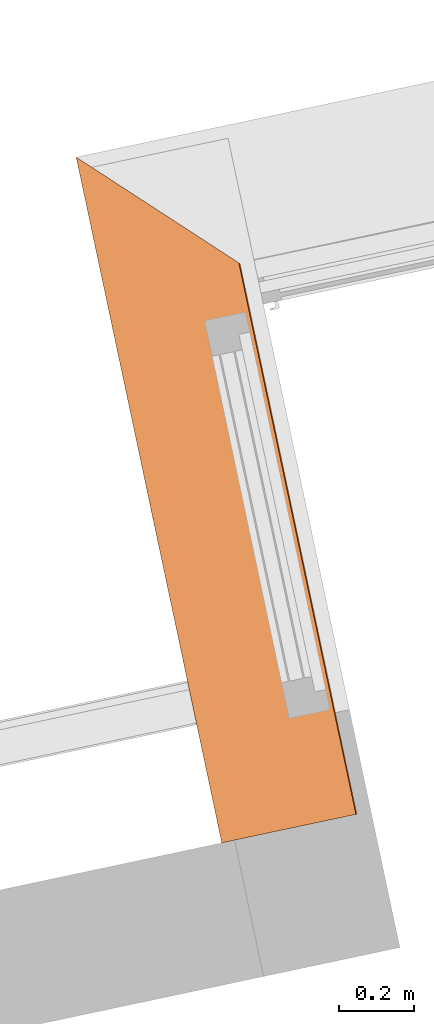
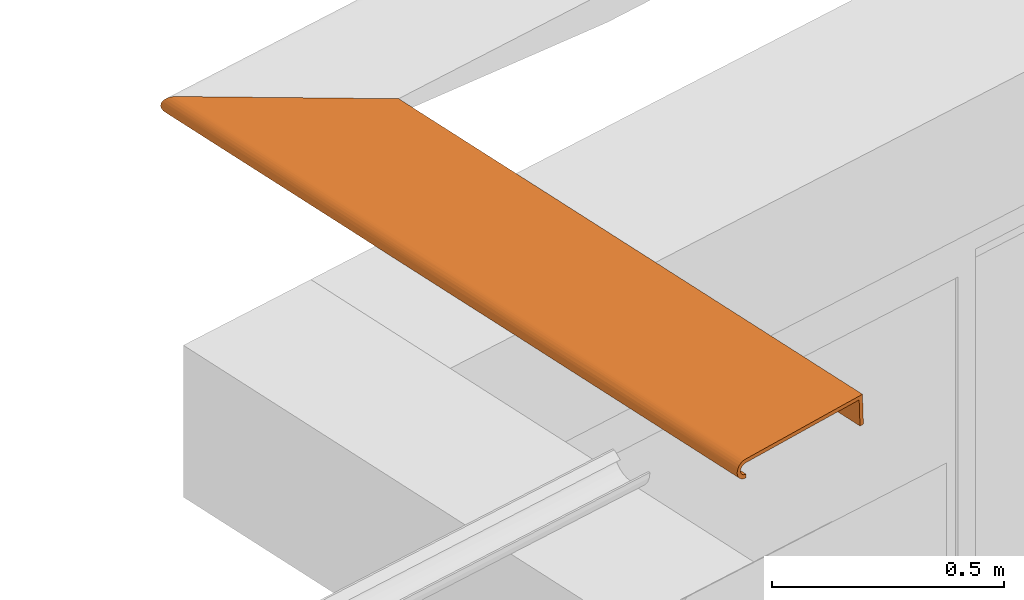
# One storey, part 20 of 22: 1 proxy.
"""IFC2X3 building model written with IfcOpenShell, lengths in centimetres."""

from ifc_helpers import new_model, entity, si_unit, converted_unit, derived_unit, direction, frame, origin, place, context, subcontext, project, spatial, faceted_brep, type_object, element, save


model = new_model("IFC2X3")

# Units and contexts
model_context = context("Model", 3, precision=0.001, world=origin(), true_north=direction((6.12303176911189e-17, 1.0)))
body_context = subcontext(model_context, "Body", "Model", "MODEL_VIEW")
ifc_project = project(units=[si_unit("LENGTHUNIT", "METRE", prefix="CENTI"), si_unit("AREAUNIT", "SQUARE_METRE"), si_unit("VOLUMEUNIT", "CUBIC_METRE"), converted_unit("PLANEANGLEUNIT", "DEGREE", entity("IfcRatioMeasure", 0.0174532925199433), si_unit("PLANEANGLEUNIT", "RADIAN"), dimensions=[0, 0, 0, 0, 0, 0, 0]), si_unit("MASSUNIT", "GRAM", prefix="KILO"), derived_unit("MASSDENSITYUNIT", [(si_unit("MASSUNIT", "GRAM", prefix="KILO"), 1), (si_unit("LENGTHUNIT", "METRE"), -3)]), derived_unit("IONCONCENTRATIONUNIT", [(si_unit("MASSUNIT", "GRAM", prefix="KILO"), 1), (si_unit("LENGTHUNIT", "METRE"), -3)]), derived_unit("MOMENTOFINERTIAUNIT", [(si_unit("LENGTHUNIT", "METRE"), 4)]), si_unit("TIMEUNIT", "SECOND"), si_unit("FREQUENCYUNIT", "HERTZ"), si_unit("THERMODYNAMICTEMPERATUREUNIT", "DEGREE_CELSIUS"), derived_unit("THERMALTRANSMITTANCEUNIT", [(si_unit("MASSUNIT", "GRAM", prefix="KILO"), 1), (si_unit("THERMODYNAMICTEMPERATUREUNIT", "KELVIN"), -1), (si_unit("TIMEUNIT", "SECOND"), -3)]), derived_unit("THERMALCONDUCTANCEUNIT", [(si_unit("MASSUNIT", "GRAM", prefix="KILO"), 1), (si_unit("THERMODYNAMICTEMPERATUREUNIT", "KELVIN"), -1), (si_unit("TIMEUNIT", "SECOND"), -3), (si_unit("LENGTHUNIT", "METRE"), 1)]), derived_unit("VOLUMETRICFLOWRATEUNIT", [(si_unit("LENGTHUNIT", "METRE"), 3), (si_unit("TIMEUNIT", "SECOND"), -1)]), derived_unit("MASSFLOWRATEUNIT", [(si_unit("MASSUNIT", "GRAM", prefix="KILO"), 1), (si_unit("TIMEUNIT", "SECOND"), -1)]), derived_unit("ROTATIONALFREQUENCYUNIT", [(si_unit("TIMEUNIT", "SECOND"), -1)]), si_unit("ELECTRICCURRENTUNIT", "AMPERE"), si_unit("ELECTRICVOLTAGEUNIT", "VOLT"), si_unit("POWERUNIT", "WATT"), si_unit("FORCEUNIT", "NEWTON", prefix="KILO"), si_unit("ILLUMINANCEUNIT", "LUX"), si_unit("LUMINOUSFLUXUNIT", "LUMEN"), si_unit("LUMINOUSINTENSITYUNIT", "CANDELA"), derived_unit("USERDEFINED", [(si_unit("MASSUNIT", "GRAM", prefix="KILO"), -1), (si_unit("LENGTHUNIT", "METRE"), -2), (si_unit("TIMEUNIT", "SECOND"), 3), (si_unit("LUMINOUSFLUXUNIT", "LUMEN"), 1)]), derived_unit("USERDEFINED", [(si_unit("MASSUNIT", "GRAM", prefix="KILO"), 1), (si_unit("TIMEUNIT", "SECOND"), -3), (si_unit("LENGTHUNIT", "METRE"), 3), (si_unit("ELECTRICCURRENTUNIT", "AMPERE"), -2)]), derived_unit("SOUNDPOWERUNIT", [(si_unit("MASSUNIT", "GRAM", prefix="KILO"), 1), (si_unit("TIMEUNIT", "SECOND"), -3), (si_unit("LENGTHUNIT", "METRE"), 2)]), derived_unit("SOUNDPRESSUREUNIT", [(si_unit("MASSUNIT", "GRAM", prefix="KILO"), 1), (si_unit("LENGTHUNIT", "METRE"), -1), (si_unit("TIMEUNIT", "SECOND"), -2)]), derived_unit("LINEARVELOCITYUNIT", [(si_unit("LENGTHUNIT", "METRE"), 1), (si_unit("TIMEUNIT", "SECOND"), -1)]), si_unit("PRESSUREUNIT", "PASCAL"), derived_unit("USERDEFINED", [(si_unit("MASSUNIT", "GRAM", prefix="KILO"), 1), (si_unit("LENGTHUNIT", "METRE"), -2), (si_unit("TIMEUNIT", "SECOND"), -2)]), derived_unit("LINEARFORCEUNIT", [(si_unit("MASSUNIT", "GRAM", prefix="KILO"), 1), (si_unit("TIMEUNIT", "SECOND"), -2)]), derived_unit("PLANARFORCEUNIT", [(si_unit("MASSUNIT", "GRAM", prefix="KILO"), 1), (si_unit("LENGTHUNIT", "METRE"), -1), (si_unit("TIMEUNIT", "SECOND"), -2)]), derived_unit("SPECIFICHEATCAPACITYUNIT", [(si_unit("THERMODYNAMICTEMPERATUREUNIT", "KELVIN"), -1), (si_unit("LENGTHUNIT", "METRE"), 2), (si_unit("TIMEUNIT", "SECOND"), -2)]), derived_unit("HEATINGVALUEUNIT", [(si_unit("LENGTHUNIT", "METRE"), 2), (si_unit("TIMEUNIT", "SECOND"), -2)]), derived_unit("VAPORPERMEABILITYUNIT", [(si_unit("LENGTHUNIT", "METRE"), -1), (si_unit("TIMEUNIT", "SECOND"), 1)]), derived_unit("DYNAMICVISCOSITYUNIT", [(si_unit("MASSUNIT", "GRAM", prefix="KILO"), 1), (si_unit("TIMEUNIT", "SECOND"), -1), (si_unit("LENGTHUNIT", "METRE"), -1)]), derived_unit("THERMALEXPANSIONCOEFFICIENTUNIT", [(si_unit("THERMODYNAMICTEMPERATUREUNIT", "KELVIN"), -1)]), derived_unit("MODULUSOFELASTICITYUNIT", [(si_unit("MASSUNIT", "GRAM", prefix="KILO"), 1), (si_unit("LENGTHUNIT", "METRE"), -1), (si_unit("TIMEUNIT", "SECOND"), -2)]), derived_unit("ISOTHERMALMOISTURECAPACITYUNIT", [(si_unit("LENGTHUNIT", "METRE"), 3), (si_unit("MASSUNIT", "GRAM", prefix="KILO"), -1)]), derived_unit("MOISTUREDIFFUSIVITYUNIT", [(si_unit("TIMEUNIT", "SECOND"), -1), (si_unit("LENGTHUNIT", "METRE"), 2)])], contexts=[model_context])

# Site, building, storey
site_placement = place(None, frame((14083.8920177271, -6853.25409548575, 6900.0), z_axis=(0.0, 0.0, 1.0), x_axis=(0.978188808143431, 0.207717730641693, 0.0)))
site = spatial("IfcSite", under=ifc_project, at=site_placement, Name="Surface", CompositionType="ELEMENT")
building_placement = place(site_placement, origin())
building = spatial("IfcBuilding", under=site, at=building_placement, CompositionType="ELEMENT")
storey_placement = place(building_placement, frame((0.0, 0.0, -17.0)))
storey = spatial("IfcBuildingStorey", under=building, at=storey_placement, Name="Rez de chaussée (SD)", CompositionType="ELEMENT", Elevation=-16.9999999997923)

# Proxy
building_element_proxy_type = type_object("IfcBuildingElementProxyType", Name="5037036", PredefinedType="NOTDEFINED")
proxy_placement = place(storey_placement, frame((-6280.45377363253, 15539.6324526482, 335.65533842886)))
element("IfcBuildingElementProxy", 1, at=proxy_placement, inside=storey, type_object=building_element_proxy_type, Name="5037036", context=body_context, shape_type="Brep", body=[
    faceted_brep([(1.48432538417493, 0.0, 2.1375971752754), (2.09562665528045, 0.0, 1.90904099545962), (2.7452530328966, 0.0, 1.846489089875), (2.71035353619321, 0.0, 2.84587991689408), (2.32057770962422, 0.0, 2.88341106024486), (1.95379694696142, 0.0, 3.02054476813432), (1.63500675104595, 0.0, 3.24793560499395), (1.38593214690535, 0.0, 3.5500872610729), (1.22354715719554, 0.0, 3.90640860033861), (1.15891805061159, 0.0, 4.292616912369), (1.19644919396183, 0.0, 4.68239273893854), (1.33358290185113, 0.0, 5.04917350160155), (1.56097373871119, 0.0, 5.36796369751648), (1.86312539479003, 0.0, 5.61703830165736), (2.21944673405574, 0.0, 5.77942329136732), (2.60565504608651, 0.0, 5.84405239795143), (35.5855523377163, 0.0, 6.99573578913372), (35.8298488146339, 0.0, 0.0), (36.829239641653, 0.0, 0.0348994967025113), (36.5946929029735, 0.0, 6.75143931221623), (36.5500436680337, 0.0, 8.03002611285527), (2.57075554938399, 0.0, 6.84344322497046), (1.92707502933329, 0.0, 6.73572804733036), (1.33320613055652, 0.0, 6.46508639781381), (0.829620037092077, 0.0, 6.049962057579), (0.450635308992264, 0.0, 5.5186450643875), (0.222079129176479, 0.0, 4.90734379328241), (0.159527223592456, 0.0, 4.25771741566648), (0.267242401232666, 0.0, 3.61403689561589), (0.537884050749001, 0.0, 3.02016799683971), (0.953008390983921, 0.0, 2.51658190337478), (1.1964491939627, 184.978997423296, 4.68239273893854), (1.15891805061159, 185.016528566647, 4.292616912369), (1.22354715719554, 184.951899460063, 3.90640860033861), (1.38593214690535, 184.789514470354, 3.5500872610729), (1.63500675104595, 184.540439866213, 3.24793560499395), (1.95379694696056, 184.221649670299, 3.02054476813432), (2.32057770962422, 183.854868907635, 2.88341106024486), (2.71035353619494, 183.465093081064, 2.84587991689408), (2.74525303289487, 183.430193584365, 1.846489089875), (2.09562665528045, 184.079819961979, 1.90904099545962), (1.4843253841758, 184.691121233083, 2.1375971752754), (0.953008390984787, 185.222438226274, 2.51658190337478), (0.537884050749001, 185.63756256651, 3.02016799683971), (0.267242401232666, 185.908204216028, 3.61403689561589), (0.159527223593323, 186.015919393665, 4.25771741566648), (0.222079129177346, 185.953367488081, 4.90734379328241), (0.450635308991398, 185.724811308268, 5.5186450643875), (0.829620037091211, 185.345826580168, 6.049962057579), (1.33320613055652, 184.842240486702, 6.46508639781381), (1.92707502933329, 184.248371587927, 6.73572804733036), (2.57075554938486, 183.604691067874, 6.84344322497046), (36.5500436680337, 149.625402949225, 8.03002611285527), (36.5946929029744, 149.580753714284, 6.75143931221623), (36.8292396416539, 149.346206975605, 0.0348994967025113), (35.8298488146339, 150.345597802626, 0.0), (35.585552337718, 150.589894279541, 6.99573578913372), (2.60565504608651, 183.569791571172, 5.84405239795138), (2.21944673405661, 183.955999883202, 5.77942329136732), (1.8631253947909, 184.312321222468, 5.61703830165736), (1.56097373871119, 184.614472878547, 5.36796369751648), (1.333582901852, 184.841863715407, 5.04917350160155), (2.60565504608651, 22.9460462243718, 5.84405239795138), (2.60565504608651, 45.8920924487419, 5.84405239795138), (2.60565504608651, 68.838138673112, 5.84405239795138), (2.60565504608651, 91.7848957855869, 5.84405239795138), (2.60565504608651, 114.731652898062, 5.84405239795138), (2.60565504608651, 137.677699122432, 5.84405239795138), (2.60565504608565, 160.623745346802, 5.84405239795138), (2.57075554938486, 148.687582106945, 6.84344322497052), (2.57075554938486, 113.770473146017, 6.84344322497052), (2.57075554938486, 91.8022331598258, 6.84344322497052), (2.57075554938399, 69.8339931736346, 6.84344322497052), (2.57075554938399, 34.91710896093, 6.84344322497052), (2.08404438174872, 161.352042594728, 6.77818830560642), (1.22021119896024, 42.670183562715, 6.39014366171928), (0.622715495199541, 28.7187969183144, 5.79672354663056), (1.06780874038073, 23.8047083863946, 6.27402761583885), (0.172170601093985, 56.9177470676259, 4.61073083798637), (0.192290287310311, 60.6225576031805, 3.93234714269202), (0.163007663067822, 42.2136329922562, 4.18687812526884), (1.60433717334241, 149.853138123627, 6.6120756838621), (0.475289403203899, 108.599496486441, 5.56388195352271), (0.598086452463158, 129.093552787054, 5.76156013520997), (0.272511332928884, 116.72124533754, 5.09291224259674), (0.169359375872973, 157.422457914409, 4.58297137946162), (0.617041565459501, 156.962928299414, 5.78873592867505), (0.314825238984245, 165.09942869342, 5.21646597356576), (1.05950320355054, 161.429139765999, 6.26715092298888), (1.60889695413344, 61.5057904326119, 6.6141893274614), (1.06780874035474, 61.5356587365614, 6.27402761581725), (0.313048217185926, 140.381577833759, 5.2116731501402), (0.722980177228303, 160.415853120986, 2.76203164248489), (1.19743004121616, 162.394098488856, 2.31599527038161), (1.20624690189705, 22.780803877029, 2.3096773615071), (1.78248583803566, 30.1268004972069, 2.003285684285), (0.379600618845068, 151.173436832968, 3.3159488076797), (0.608230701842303, 56.9943281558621, 5.77619927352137), (0.316323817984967, 45.5191963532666, 5.22048461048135), (0.316323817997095, 20.7731985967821, 5.22048461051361), (0.169513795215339, 28.7187969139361, 4.58458053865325), (0.1919113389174, 162.339158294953, 3.93461807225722), (2.08312625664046, 22.6986589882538, 6.77797155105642), (1.76701246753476, 154.481751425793, 2.00912935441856), (2.2872059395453, 21.6425975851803, 1.87261735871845), (0.230852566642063, 143.874843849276, 3.74585472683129), (1.18720059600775, 136.127899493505, 2.32339832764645), (2.08656964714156, 45.3486071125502, 6.77878259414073), (1.62127118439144, 35.1759716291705, 6.61986933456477), (0.359457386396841, 126.504966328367, 3.36176621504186), (0.658118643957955, 129.331494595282, 2.84481369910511), (1.29499313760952, 110.033278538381, 2.24920839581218), (1.8006764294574, 122.992621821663, 1.99656479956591), (1.71143907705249, 91.7150968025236, 2.03109185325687), (0.737394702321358, 91.3362093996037, 5.94535948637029), (0.309667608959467, 92.9766837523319, 5.20247115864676), (0.360825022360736, 69.3361444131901, 5.33135725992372), (0.19229028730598, 23.8047083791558, 3.93234714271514), (0.171596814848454, 129.618367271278, 4.60530797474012), (0.19318033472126, 81.2048227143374, 3.92706322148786), (0.383101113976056, 34.785816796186, 3.30823305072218), (0.728942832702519, 25.1908548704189, 2.7547706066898), (1.69937150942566, 91.8023455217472, 6.65386701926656), (2.12654232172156, 80.8182173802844, 6.78782271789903), (1.87728886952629, 111.550709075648, 6.71993635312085), (1.20624690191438, 49.2346060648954, 2.30967736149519), (0.669478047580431, 56.6557069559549, 2.82978848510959), (0.158160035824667, 90.4296173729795, 4.37287133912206), (1.82279922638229, 61.09050300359, 1.98860614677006), (2.7452530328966, 91.7150967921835, 1.84648908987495), (2.74525303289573, 69.8348015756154, 1.84648908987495), (2.12522887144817, 83.3554657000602, 1.90239571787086), (2.22995273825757, 45.095418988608, 1.88188437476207), (2.74525303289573, 34.9167585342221, 1.84648908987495), (2.06383681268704, 131.229124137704, 6.77333289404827), (0.365448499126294, 60.9478015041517, 3.34787642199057), (0.30028723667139, 91.9230155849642, 3.51359963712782), (0.481439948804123, 91.6241562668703, 3.11510126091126), (2.7452530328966, 148.513435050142, 1.846489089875), (2.28514868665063, 162.124185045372, 1.87292677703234), (1.5306850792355, 126.136170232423, 6.57636737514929), (1.1725981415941, 84.1920464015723, 2.33410351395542), (2.29493013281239, 123.404544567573, 1.87147123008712), (2.7452530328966, 113.596676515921, 1.84648908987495), (2.21854354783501, 102.655600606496, 1.88389438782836), (0.238533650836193, 43.1910744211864, 3.71555228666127), (1.22924057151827, 141.6737225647, 6.39646176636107), (0.867270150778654, 143.169618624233, 6.08946357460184), (0.728942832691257, 92.611219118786, 2.75477060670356), (0.806165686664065, 111.895217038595, 2.66547403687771), (0.51972281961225, 109.366422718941, 3.04968535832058), (0.61009849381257, 75.3012513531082, 2.91106175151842), (1.0466088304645, 124.52002118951, 6.25635430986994), (0.754500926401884, 111.679092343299, 5.96566814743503), (1.07317264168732, 105.033701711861, 6.27843677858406), (2.15045158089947, 142.703209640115, 1.89703024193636), (2.28109670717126, 64.772300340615, 1.87354133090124), (1.17641765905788, 86.2490895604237, 6.35864464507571), (0.208948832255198, 76.8070121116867, 4.84708901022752), (0.189689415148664, 102.412738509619, 3.94820215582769), (0.191324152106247, 125.474576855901, 3.93816265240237), (0.174457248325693, 108.592707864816, 4.63131225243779), (2.71035353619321, 156.418414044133, 2.84587991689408), (2.71035353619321, 132.302372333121, 2.84587991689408), (2.71035353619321, 108.18645913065, 2.84587991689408), (2.71035353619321, 81.1397800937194, 2.84587991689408), (2.71035353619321, 54.093229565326, 2.84587991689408), (2.71035353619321, 27.0466790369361, 2.84587991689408), (1.50056741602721, 19.8228862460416, 3.39084882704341), (1.29306238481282, 12.0823096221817, 3.72292629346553), (1.25299600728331, 41.1886875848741, 4.87027722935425), (1.42042975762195, 52.6787712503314, 5.19255643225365), (1.3741461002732, 38.3263766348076, 5.12066464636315), (2.33960668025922, 80.311783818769, 5.81078434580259), (2.13881043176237, 56.5886089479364, 5.75224641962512), (1.25299600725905, 92.4209318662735, 4.87027722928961), (1.36509812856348, 71.7557989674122, 5.10548811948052), (1.23923026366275, 66.8048097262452, 4.83187503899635), (1.78694985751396, 41.1639860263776, 3.12379287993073), (1.4681896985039, 43.3551762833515, 3.43154334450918), (1.43683101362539, 24.5457870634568, 5.21602059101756), (1.16482965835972, 160.243510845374, 4.48789801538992), (1.25118390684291, 143.014320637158, 4.86540482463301), (1.16705440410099, 132.831805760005, 4.50949103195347), (1.17857588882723, 18.903553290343, 4.09739474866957), (2.29440480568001, 144.201242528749, 5.8002308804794), (2.29077305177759, 162.134384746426, 5.79931866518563), (1.29224680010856, 171.465764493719, 3.72471904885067), (1.29121730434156, 154.489438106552, 3.72699096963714), (1.49763786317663, 164.190366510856, 3.39441381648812), (2.40274645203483, 35.260556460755, 2.86684456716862), (2.43005575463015, 16.9903475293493, 2.86238750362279), (1.43387976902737, 159.967819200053, 5.21186820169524), (1.16490999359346, 24.5457870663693, 4.48873478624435), (2.12857342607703, 170.777675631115, 2.94150509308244), (1.77993442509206, 106.465606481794, 5.56110484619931), (1.45708225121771, 108.776564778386, 5.24373545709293), (1.6924362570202, 129.958850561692, 5.49286788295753), (2.12334115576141, 153.915106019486, 2.94349003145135), (2.01811678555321, 131.095390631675, 2.98829966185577), (2.22917881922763, 140.285680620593, 2.90756965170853), (1.77420510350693, 129.90361847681, 3.13298472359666), (1.48002334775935, 140.189763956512, 3.41633226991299), (1.55089335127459, 124.357042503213, 3.33288643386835), (1.25308343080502, 118.794547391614, 4.87051099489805), (1.78270003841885, 166.260848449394, 3.12683543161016), (1.37347579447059, 145.87952217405, 5.11955413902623), (1.25217800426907, 166.046361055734, 4.86808416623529), (1.16389628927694, 148.073677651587, 4.21214568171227), (1.17839424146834, 166.122141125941, 4.09848268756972), (2.44715813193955, 167.415306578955, 2.85985878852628), (1.25299600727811, 18.9035532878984, 4.87027722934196), (1.41287003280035, 131.12795785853, 5.18141142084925), (2.20934279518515, 51.2876425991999, 2.91363710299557), (1.84790563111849, 67.727792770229, 3.08253193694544), (1.61546767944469, 36.9595502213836, 5.42344537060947), (1.70388696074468, 18.903553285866, 5.50240303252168), (1.69990834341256, 165.576475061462, 5.49911179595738), (2.16212419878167, 114.200167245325, 5.76062958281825), (1.88005269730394, 120.547411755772, 5.62746033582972), (1.99374173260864, 134.387745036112, 5.6898658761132), (2.03596442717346, 13.4523384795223, 5.70990806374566), (1.15863557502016, 96.440608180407, 4.30145233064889), (1.17852159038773, 95.5232904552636, 4.59221287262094), (1.16316443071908, 81.3691411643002, 4.46927943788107), (2.03206482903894, 170.833253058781, 5.70812417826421), (2.1326932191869, 24.5358074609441, 2.93995787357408), (1.46381490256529, 109.112995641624, 3.43727033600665), (1.63137273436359, 94.1299744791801, 3.25133566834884), (1.73897080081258, 111.497469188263, 3.15947999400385), (1.28829429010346, 133.758717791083, 3.73349701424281), (1.17804849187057, 129.987837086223, 4.10056723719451), (1.24404454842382, 110.973505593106, 3.84424882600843), (1.78694985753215, 18.1218904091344, 3.12379287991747), (2.29328068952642, 21.9592266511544, 5.79994955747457), (2.03596442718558, 30.4661148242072, 5.70990806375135), (1.76709250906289, 72.7255962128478, 5.55172885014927), (2.01612332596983, 82.4215013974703, 5.7006906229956), (2.02711909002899, 153.938954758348, 5.70584229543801), (2.41804098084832, 151.01546727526, 2.86428468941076), (1.8301328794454, 148.031195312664, 3.09411487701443), (1.1785758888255, 49.4929250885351, 4.09739474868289), (1.3004988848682, 61.1220471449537, 3.7068603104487), (1.17475563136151, 69.9184173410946, 4.12141881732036), (1.61030331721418, 147.856716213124, 5.4184290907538), (1.16206427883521, 59.7471797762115, 4.45525432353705), (1.15917440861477, 41.9639717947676, 4.40420282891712), (1.29306238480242, 28.0349075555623, 3.72292629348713), (1.17064697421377, 34.1982391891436, 4.1506257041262), (2.30286632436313, 39.4321446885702, 5.80231890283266), (1.30529516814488, 44.5483029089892, 3.69675475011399), (1.50056741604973, 78.1635025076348, 3.39084882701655), (1.58820258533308, 60.0991385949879, 3.29352699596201), (2.03646277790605, 113.165735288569, 2.97979724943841), (1.1896354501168, 89.89112874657, 4.03854659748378), (1.3262293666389, 92.1389993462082, 3.65476651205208), (2.25188635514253, 76.2526001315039, 2.90098962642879), (1.70388696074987, 55.0155471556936, 5.50240303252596), (2.4197648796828, 94.6631926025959, 2.86400633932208), (1.79326933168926, 83.0274281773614, 3.11930982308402), (2.31608700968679, 109.724337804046, 2.88445509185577), (1.53616945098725, 65.2874532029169, 5.34070035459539), (1.51549675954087, 81.2805876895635, 5.31691087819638), (2.29425475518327, 97.9564089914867, 5.80019338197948), (2.35175251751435, 127.543360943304, 5.81337000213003), (1.17089078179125, 110.965217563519, 4.14876878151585), (1.76929060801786, 89.6025245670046, 5.55334854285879), (1.16246385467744, 109.452135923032, 4.46054644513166), (1.24834976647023, 76.8579207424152, 3.83225364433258), (2.01852641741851, 100.717996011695, 5.70182578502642), (2.16227792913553, 97.9843711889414, 2.92924889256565), (1.9149057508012, 96.7303064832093, 3.04196786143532), (2.26666377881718, 125.566301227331, 2.89691484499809)], [[[0, 1, 2, 3, 4, 5, 6, 7, 8, 9, 10, 11, 12, 13, 14, 15, 16, 17, 18, 19, 20, 21, 22, 23, 24, 25, 26, 27, 28, 29, 30]], [[31, 32, 33, 34, 35, 36, 37, 38, 39, 40, 41, 42, 43, 44, 45, 46, 47, 48, 49, 50, 51, 52, 53, 54, 55, 56, 57, 58, 59, 60, 61]], [[16, 15, 62, 63, 64, 65, 66, 67, 68, 57, 56]], [[20, 19, 18, 54, 53, 52]], [[21, 20, 52, 51, 69, 70, 71, 72, 73]], [[50, 74, 51]], [[75, 76, 77]], [[78, 79, 80]], [[81, 50, 49]], [[76, 24, 77]], [[82, 83, 84]], [[46, 45, 85]], [[47, 86, 48]], [[25, 24, 76]], [[87, 47, 46]], [[48, 88, 49]], [[75, 89, 90]], [[91, 87, 85]], [[92, 43, 42]], [[93, 42, 41]], [[0, 94, 95]], [[96, 43, 92]], [[97, 98, 76]], [[98, 99, 76]], [[86, 88, 48]], [[27, 26, 100]], [[25, 99, 26]], [[101, 85, 45]], [[21, 73, 102]], [[100, 26, 99]], [[41, 40, 103]], [[2, 1, 104]], [[85, 101, 105]], [[106, 93, 103]], [[107, 89, 108]], [[109, 96, 110]], [[111, 112, 113]], [[106, 112, 111]], [[114, 115, 116]], [[27, 117, 28]], [[118, 91, 85]], [[79, 78, 119]], [[96, 44, 43]], [[0, 30, 94]], [[29, 28, 120]], [[23, 22, 108]], [[121, 29, 120]], [[122, 123, 124]], [[125, 121, 126]], [[95, 1, 0]], [[78, 127, 119]], [[125, 128, 95]], [[117, 27, 100]], [[129, 130, 131]], [[86, 47, 87]], [[132, 133, 104]], [[134, 69, 74]], [[96, 92, 110]], [[135, 136, 137]], [[29, 121, 30]], [[39, 138, 139]], [[22, 102, 108]], [[108, 102, 107]], [[140, 134, 81]], [[74, 50, 81]], [[141, 128, 125]], [[104, 1, 95]], [[40, 139, 103]], [[142, 143, 144]], [[24, 23, 77]], [[76, 75, 97]], [[78, 100, 98]], [[145, 117, 80]], [[45, 44, 101]], [[85, 105, 118]], [[83, 86, 91]], [[146, 88, 147]], [[141, 148, 149]], [[112, 106, 103]], [[93, 92, 42]], [[110, 92, 106]], [[149, 106, 111]], [[150, 109, 110]], [[126, 121, 120]], [[94, 121, 125]], [[120, 145, 135]], [[126, 151, 141]], [[23, 108, 77]], [[75, 77, 108]], [[80, 117, 100]], [[120, 28, 117]], [[44, 96, 101]], [[105, 101, 96]], [[147, 88, 86]], [[81, 49, 88]], [[134, 70, 69]], [[152, 153, 154]], [[121, 94, 30]], [[95, 94, 125]], [[103, 93, 41]], [[92, 93, 106]], [[103, 139, 155]], [[144, 143, 129]], [[130, 156, 131]], [[132, 130, 133]], [[85, 87, 46]], [[86, 87, 91]], [[76, 99, 25]], [[100, 99, 98]], [[114, 97, 90]], [[116, 98, 97]], [[157, 114, 90]], [[152, 147, 83]], [[116, 78, 98]], [[78, 116, 158]], [[118, 84, 91]], [[150, 137, 136]], [[159, 136, 119]], [[160, 105, 109]], [[161, 160, 159]], [[161, 115, 84]], [[83, 91, 84]], [[153, 83, 82]], [[161, 84, 118]], [[84, 115, 82]], [[115, 114, 82]], [[153, 82, 114]], [[154, 114, 157]], [[152, 83, 153]], [[160, 161, 118]], [[161, 127, 158]], [[114, 116, 97]], [[116, 115, 158]], [[161, 158, 115]], [[127, 78, 158]], [[141, 111, 113]], [[149, 148, 150]], [[128, 141, 113]], [[126, 141, 125]], [[21, 102, 22]], [[107, 102, 73]], [[73, 72, 107]], [[124, 123, 71]], [[123, 107, 72]], [[157, 89, 122]], [[81, 146, 140]], [[70, 134, 124]], [[140, 152, 154]], [[124, 134, 140]], [[140, 122, 124]], [[123, 72, 71]], [[89, 107, 123]], [[70, 124, 71]], [[89, 123, 122]], [[134, 74, 81]], [[51, 74, 69]], [[132, 95, 128]], [[2, 104, 133]], [[95, 132, 104]], [[156, 132, 128]], [[131, 128, 113]], [[130, 132, 156]], [[144, 131, 113]], [[113, 112, 144]], [[142, 144, 112]], [[155, 112, 103]], [[138, 143, 142]], [[129, 131, 144]], [[128, 131, 156]], [[39, 139, 40]], [[155, 138, 142]], [[138, 155, 139]], [[112, 155, 142]], [[110, 149, 150]], [[159, 109, 136]], [[137, 150, 148]], [[136, 109, 150]], [[106, 149, 110]], [[141, 149, 111]], [[148, 151, 137]], [[137, 151, 135]], [[141, 151, 148]], [[151, 126, 135]], [[120, 135, 126]], [[135, 79, 119]], [[89, 75, 108]], [[75, 90, 97]], [[78, 80, 100]], [[145, 80, 79]], [[135, 145, 79]], [[117, 145, 120]], [[109, 105, 96]], [[105, 160, 118]], [[83, 147, 86]], [[146, 147, 152]], [[140, 146, 152]], [[88, 146, 81]], [[89, 157, 90]], [[122, 140, 154]], [[114, 154, 153]], [[154, 157, 122]], [[159, 119, 127]], [[135, 119, 136]], [[161, 159, 127]], [[109, 159, 160]], [[3, 2, 133, 130, 129, 143, 138, 39, 38, 162, 163, 164, 165, 166, 167]], [[168, 169, 7]], [[170, 171, 172]], [[173, 64, 174]], [[175, 176, 177]], [[168, 178, 179]], [[12, 11, 180]], [[181, 182, 183]], [[184, 9, 8]], [[185, 186, 68]], [[187, 188, 189]], [[190, 191, 167]], [[60, 192, 61]], [[167, 166, 190]], [[8, 7, 169]], [[9, 184, 193]], [[37, 36, 194]], [[195, 196, 197]], [[198, 199, 200]], [[201, 202, 203]], [[182, 204, 183]], [[35, 189, 205]], [[206, 182, 207]], [[208, 209, 181]], [[210, 162, 38]], [[211, 193, 170]], [[182, 206, 212]], [[213, 214, 178]], [[180, 215, 216]], [[192, 60, 217]], [[10, 211, 11]], [[218, 219, 220]], [[221, 14, 13]], [[222, 223, 224]], [[180, 216, 12]], [[32, 181, 209]], [[10, 9, 193]], [[58, 225, 59]], [[5, 4, 226]], [[227, 228, 229]], [[31, 207, 181]], [[230, 231, 232]], [[31, 61, 207]], [[210, 194, 198]], [[60, 59, 217]], [[5, 233, 6]], [[34, 33, 187]], [[15, 234, 62]], [[211, 10, 193]], [[32, 31, 181]], [[177, 171, 170]], [[35, 34, 189]], [[189, 188, 202]], [[221, 235, 234]], [[236, 237, 174]], [[185, 220, 238]], [[58, 186, 225]], [[198, 200, 239]], [[189, 202, 240]], [[241, 242, 243]], [[6, 168, 7]], [[168, 6, 233]], [[191, 4, 3]], [[217, 238, 244]], [[209, 33, 32]], [[183, 208, 181]], [[245, 170, 246]], [[184, 247, 248]], [[216, 13, 12]], [[172, 171, 215]], [[213, 178, 226]], [[226, 4, 191]], [[205, 36, 35]], [[189, 240, 205]], [[247, 168, 179]], [[234, 249, 62]], [[57, 186, 58]], [[226, 178, 233]], [[242, 241, 250]], [[251, 252, 214]], [[201, 229, 253]], [[230, 202, 188]], [[254, 255, 232]], [[208, 231, 230]], [[250, 247, 179]], [[224, 177, 245]], [[253, 199, 201]], [[256, 214, 213]], [[192, 217, 244]], [[238, 217, 225]], [[181, 207, 182]], [[207, 61, 192]], [[33, 209, 187]], [[208, 230, 188]], [[211, 180, 11]], [[172, 180, 211]], [[248, 246, 193]], [[247, 184, 169]], [[13, 216, 221]], [[257, 235, 215]], [[178, 252, 179]], [[213, 166, 256]], [[36, 205, 194]], [[165, 258, 256]], [[198, 205, 240]], [[168, 233, 178]], [[233, 5, 226]], [[228, 251, 259]], [[166, 165, 256]], [[214, 256, 259]], [[164, 258, 165]], [[34, 187, 189]], [[260, 258, 164]], [[216, 215, 235]], [[171, 257, 215]], [[257, 171, 261]], [[261, 171, 176]], [[262, 236, 261]], [[262, 175, 196]], [[175, 177, 224]], [[245, 177, 170]], [[174, 235, 257]], [[173, 237, 263]], [[67, 66, 264]], [[185, 68, 67]], [[175, 224, 223]], [[241, 243, 245]], [[204, 196, 175]], [[265, 254, 232]], [[266, 237, 236]], [[182, 212, 204]], [[209, 208, 188]], [[183, 231, 208]], [[183, 267, 231]], [[267, 183, 204]], [[223, 267, 204]], [[197, 196, 212]], [[204, 212, 196]], [[244, 197, 212]], [[254, 224, 243]], [[246, 241, 245]], [[245, 243, 224]], [[243, 242, 268]], [[254, 243, 268]], [[251, 242, 252]], [[206, 192, 244]], [[220, 197, 244]], [[202, 230, 203]], [[254, 265, 222]], [[232, 227, 230]], [[227, 232, 255]], [[227, 255, 228]], [[242, 251, 268]], [[262, 196, 266]], [[263, 269, 218]], [[268, 255, 254]], [[255, 268, 251]], [[235, 249, 234]], [[173, 65, 64]], [[64, 63, 174]], [[241, 246, 248]], [[193, 246, 170]], [[250, 241, 248]], [[184, 248, 193]], [[234, 15, 14]], [[235, 221, 216]], [[221, 234, 14]], [[63, 62, 249]], [[249, 174, 63]], [[249, 235, 174]], [[256, 270, 271]], [[270, 260, 253]], [[239, 210, 198]], [[272, 164, 163]], [[188, 187, 209]], [[59, 225, 217]], [[238, 225, 186]], [[185, 238, 186]], [[57, 68, 186]], [[220, 244, 238]], [[264, 185, 67]], [[197, 220, 219]], [[218, 66, 263]], [[218, 220, 264]], [[185, 264, 220]], [[218, 264, 66]], [[37, 194, 210]], [[198, 194, 205]], [[37, 210, 38]], [[239, 162, 210]], [[239, 163, 162]], [[272, 163, 200]], [[239, 200, 163]], [[272, 200, 199]], [[272, 199, 253]], [[240, 201, 199]], [[272, 253, 260]], [[229, 271, 253]], [[271, 229, 228]], [[227, 229, 203]], [[271, 228, 259]], [[255, 251, 228]], [[272, 260, 164]], [[258, 260, 270]], [[258, 270, 256]], [[271, 270, 253]], [[271, 259, 256]], [[214, 259, 251]], [[65, 173, 263]], [[237, 173, 174]], [[65, 263, 66]], [[218, 269, 219]], [[195, 269, 266]], [[269, 263, 237]], [[8, 169, 184]], [[247, 169, 168]], [[226, 191, 190]], [[167, 191, 3]], [[190, 213, 226]], [[213, 190, 166]], [[201, 203, 229]], [[227, 203, 230]], [[198, 240, 199]], [[201, 240, 202]], [[214, 252, 178]], [[179, 252, 242]], [[170, 172, 211]], [[180, 172, 215]], [[257, 261, 236]], [[262, 261, 176]], [[257, 236, 174]], [[237, 266, 269]], [[262, 176, 175]], [[177, 176, 171]], [[195, 266, 196]], [[266, 236, 262]], [[175, 223, 204]], [[267, 223, 222]], [[265, 267, 222]], [[254, 222, 224]], [[265, 231, 267]], [[265, 232, 231]], [[212, 206, 244]], [[192, 206, 207]], [[248, 247, 250]], [[250, 179, 242]], [[219, 195, 197]], [[269, 195, 219]], [[17, 16, 56, 55]], [[18, 17, 55, 54]]]),
])

save(model, "model.ifc")
